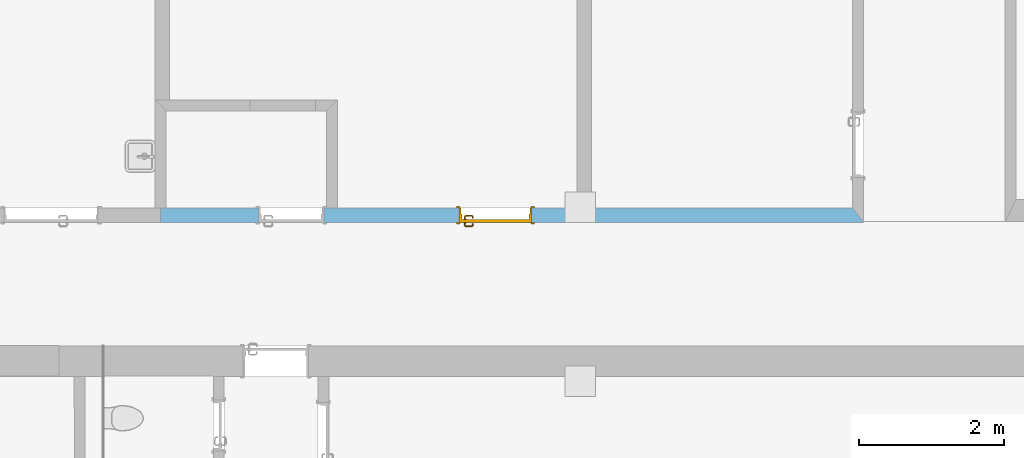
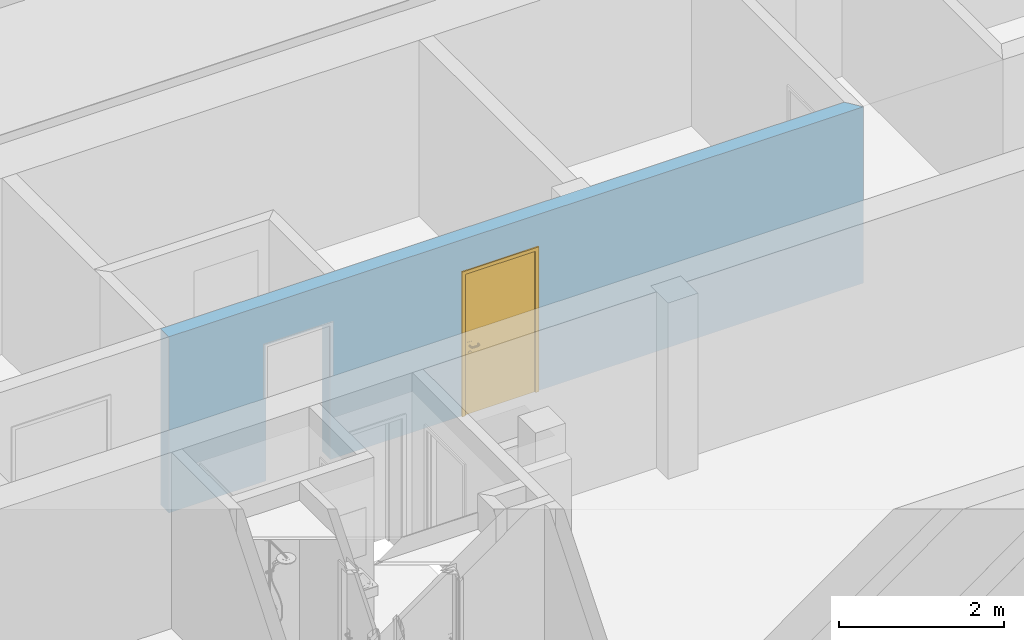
# One storey, part 55 of 127: 1 door, 2 openings, plus 1 element that does not belong to this part.
"""IFC2X3 building model written with IfcOpenShell, lengths in millimetres."""

from ifc_helpers import new_model, entity, si_unit, converted_unit, derived_unit, money_unit, direction, frame, origin_with_axes, origin_2d_with_axis, place, context, subcontext, project, spatial, polyline, rectangle, outline, extrude, open_shell, faceted_brep, surface_model, material, layer, layer_set, layer_usage, type_object, element, fill, save


model = new_model("IFC2X3")

# Units and contexts
model_context = context("Model", 3, precision=1e-05, world=origin_with_axes(), true_north=direction((0.0, 1.0)))
body_context = subcontext(model_context, "Body", "Model", "MODEL_VIEW")
ifc_project = project(units=[si_unit("LENGTHUNIT", "METRE", prefix="MILLI"), si_unit("AREAUNIT", "SQUARE_METRE"), si_unit("VOLUMEUNIT", "CUBIC_METRE"), converted_unit("PLANEANGLEUNIT", "DEGREE", entity("IfcPlaneAngleMeasure", 0.0174532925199), si_unit("PLANEANGLEUNIT", "RADIAN"), dimensions=[0, 0, 0, 0, 0, 0, 0]), si_unit("SOLIDANGLEUNIT", "STERADIAN"), money_unit("EUR"), converted_unit("TIMEUNIT", "Year", entity("IfcTimeMeasure", 31556926.0), si_unit("TIMEUNIT", "SECOND"), dimensions=[0, 0, 1, 0, 0, 0, 0]), si_unit("MASSUNIT", "GRAM", prefix="KILO"), si_unit("THERMODYNAMICTEMPERATUREUNIT", "DEGREE_CELSIUS"), si_unit("LUMINOUSINTENSITYUNIT", "LUMEN"), si_unit("ENERGYUNIT", "JOULE", prefix="MEGA"), derived_unit("THERMALCONDUCTANCEUNIT", [(si_unit("POWERUNIT", "WATT"), 1), (si_unit("LENGTHUNIT", "METRE"), -1), (si_unit("THERMODYNAMICTEMPERATUREUNIT", "KELVIN"), -1)]), derived_unit("SPECIFICHEATCAPACITYUNIT", [(si_unit("ENERGYUNIT", "JOULE"), 1), (si_unit("MASSUNIT", "GRAM", prefix="KILO"), -1), (si_unit("THERMODYNAMICTEMPERATUREUNIT", "KELVIN"), -1)]), derived_unit("MASSDENSITYUNIT", [(si_unit("MASSUNIT", "GRAM", prefix="KILO"), 1), (si_unit("VOLUMEUNIT", "CUBIC_METRE"), -1)])], contexts=[model_context])

# Site, building, storey
site_placement = place(None, origin_with_axes())
site = spatial("IfcSite", under=ifc_project, at=site_placement, Name="Site", CompositionType="ELEMENT")
building_placement = place(site_placement, origin_with_axes())
building = spatial("IfcBuilding", under=site, at=building_placement, Name="Building", CompositionType="ELEMENT")
storey_placement = place(building_placement, origin_with_axes())
storey = spatial("IfcBuildingStorey", under=building, at=storey_placement, Name="1 KORRUS", CompositionType="ELEMENT", Elevation=0.0)

# Wall, openings, door
ifc_material = material(Name="Kivi -Ol.Olev Konstruktsioon")
ifc_layer = layer(ifc_material, 200.0, ventilated="UNKNOWN")
ifc_layer_set = layer_set([ifc_layer], Name="ol.olev ss 200")
ifc_layer_usage = layer_usage(ifc_layer_set, "AXIS2", "POSITIVE", -200.0)
wall_type = type_object("IfcWallType", Name="SW - 036", PredefinedType="NOTDEFINED")
wall_placement = place(storey_placement, frame((79700.2206896, 42706.5120665, 0.0), z_axis=(0.0, 0.0, 1.0), x_axis=(-1.0, 0.0, 0.0)))
wall = element("IfcWallStandardCase", 1, at=wall_placement, inside=storey, type_object=wall_type, material=ifc_layer_usage, Name="ol.olev ss 200", context=body_context, shape_type="SweptSolid", body=[
    extrude(outline(polyline([(0.0, -200.0), (9543.44607645, -200.0), (9543.44607645, 0.0), (-150.0, 0.0), (0.0, -200.0)])), origin_with_axes(), (0.0, 0.0, 1.0), 2600.0),
])
opening_1_placement = place(wall_placement, frame((7740.94366922, 0.0, 0.0), z_axis=(0.0, 0.0, 1.0), x_axis=(1.0, 0.0, 0.0)))
element("IfcOpeningElement", 2, at=opening_1_placement, cuts=wall, Name="Siseuks * Door 22", context=body_context, shape_type="SweptSolid", body=[
    extrude(rectangle(XDim=900.0, YDim=2000.0, at=origin_2d_with_axis()), frame((0.0, -200.0, 1000.0), z_axis=(0.0, -1.0, 0.0), x_axis=(-1.0, 0.0, 0.0)), (0.0, 0.0, -1.0), 600.0),
    extrude(rectangle(XDim=974.0, YDim=2037.0, at=origin_2d_with_axis()), frame((0.0, -200.0, 1018.5), z_axis=(0.0, -1.0, 0.0), x_axis=(-1.0, 0.0, 0.0)), (0.0, 0.0, 1.0), 200.0),
    extrude(rectangle(XDim=974.0, YDim=2037.0, at=origin_2d_with_axis()), frame((0.0, 0.0, 1018.5), z_axis=(0.0, 1.0, 0.0), x_axis=(-1.0, 0.0, 0.0)), (0.0, 0.0, 1.0), 200.0),
])
opening_2_placement = place(wall_placement, frame((4924.39787578, 0.0, 0.0), z_axis=(0.0, 0.0, 1.0), x_axis=(1.0, 0.0, 0.0)))
opening_2 = element("IfcOpeningElement", 3, at=opening_2_placement, cuts=wall, Name="Siseuks * Door 22", context=body_context, shape_type="SweptSolid", body=[
    extrude(rectangle(XDim=1000.0, YDim=2100.0, at=origin_2d_with_axis()), frame((0.0, -200.0, 1050.0), z_axis=(0.0, -1.0, 0.0), x_axis=(-1.0, 0.0, 0.0)), (0.0, 0.0, -1.0), 600.0),
    extrude(rectangle(XDim=1074.0, YDim=2137.0, at=origin_2d_with_axis()), frame((0.0, -200.0, 1068.5), z_axis=(0.0, -1.0, 0.0), x_axis=(-1.0, 0.0, 0.0)), (0.0, 0.0, 1.0), 200.0),
    extrude(rectangle(XDim=1074.0, YDim=2137.0, at=origin_2d_with_axis()), frame((0.0, 0.0, 1068.5), z_axis=(0.0, 1.0, 0.0), x_axis=(-1.0, 0.0, 0.0)), (0.0, 0.0, 1.0), 200.0),
])
door_style = type_object("IfcDoorStyle", Name="SU-B125   1\xa0000×2\xa0100", ConstructionType="NOTDEFINED", OperationType="SINGLE_SWING_LEFT", ParameterTakesPrecedence=False, Sizeable=False)
door_placement = place(opening_2_placement, frame((-500.0, 0.0, 0.0), z_axis=(0.0, 0.0, 1.0), x_axis=(1.0, 0.0, 0.0)))
door = element("IfcDoor", 4, at=door_placement, inside=storey, type_object=door_style, Name="Siseuks * Door 22", OverallHeight=2100.0, OverallWidth=1000.0, context=body_context, shape_type="SurfaceModel", body=[
    faceted_brep([(1000.0, -115.0, 0.0), (1000.0, -200.0, 0.0), (975.0, -200.0, 0.0), (975.0, -115.0, 0.0), (1000.0, -115.0, 2100.0), (1000.0, -200.0, 2100.0), (975.0, -200.0, 2075.0), (975.0, -115.0, 2075.0)], [[[0, 1, 2, 3]], [[4, 5, 1, 0]], [[1, 5, 6, 2]], [[3, 2, 6, 7]], [[0, 3, 7, 4]], [[7, 6, 5, 4]]]),
    faceted_brep([(0.0, -115.0, 2100.0), (0.0, -200.0, 2100.0), (25.0, -200.0, 2075.0), (25.0, -115.0, 2075.0), (0.0, -115.0, 0.0), (0.0, -200.0, 0.0), (25.0, -200.0, 0.0), (25.0, -115.0, 0.0)], [[[0, 1, 2, 3]], [[4, 5, 1, 0]], [[1, 5, 6, 2]], [[3, 2, 6, 7]], [[0, 3, 7, 4]], [[7, 6, 5, 4]]]),
    faceted_brep([(975.0, -115.0, 2075.0), (975.0, -200.0, 2075.0), (25.0, -200.0, 2075.0), (25.0, -115.0, 2075.0), (1000.0, -115.0, 2100.0), (1000.0, -200.0, 2100.0), (0.0, -200.0, 2100.0), (0.0, -115.0, 2100.0)], [[[0, 1, 2, 3]], [[4, 5, 1, 0]], [[1, 5, 6, 2]], [[3, 2, 6, 7]], [[0, 3, 7, 4]], [[7, 6, 5, 4]]]),
    faceted_brep([(1037.0, -219.0, 0.0), (987.0, -219.0, 0.0), (987.0, -200.0, 0.0), (1037.0, -200.0, 0.0), (1037.0, -219.0, 2137.0), (987.0, -219.0, 2087.0), (987.0, -200.0, 2087.0), (1037.0, -200.0, 2137.0)], [[[0, 1, 2, 3]], [[0, 4, 5, 1]], [[1, 5, 6, 2]], [[3, 2, 6, 7]], [[4, 0, 3, 7]], [[5, 4, 7, 6]]]),
    faceted_brep([(-37.0, -219.0, 2137.0), (13.0, -219.0, 2087.0), (13.0, -200.0, 2087.0), (-37.0, -200.0, 2137.0), (-37.0, -219.0, 0.0), (13.0, -219.0, 0.0), (13.0, -200.0, 0.0), (-37.0, -200.0, 0.0)], [[[0, 1, 2, 3]], [[0, 4, 5, 1]], [[1, 5, 6, 2]], [[3, 2, 6, 7]], [[4, 0, 3, 7]], [[5, 4, 7, 6]]]),
    faceted_brep([(1037.0, -219.0, 2137.0), (987.0, -219.0, 2087.0), (987.0, -200.0, 2087.0), (1037.0, -200.0, 2137.0), (-37.0, -219.0, 2137.0), (13.0, -219.0, 2087.0), (13.0, -200.0, 2087.0), (-37.0, -200.0, 2137.0)], [[[0, 1, 2, 3]], [[0, 4, 5, 1]], [[1, 5, 6, 2]], [[3, 2, 6, 7]], [[4, 0, 3, 7]], [[5, 4, 7, 6]]]),
    faceted_brep([(1037.0, 19.0000000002, 0.0), (1037.0, 0.0, 0.0), (987.0, 0.0, 0.0), (987.0, 19.0000000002, 0.0), (1037.0, 19.0000000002, 2137.0), (1037.0, 0.0, 2137.0), (987.0, 0.0, 2087.0), (987.0, 19.0000000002, 2087.0)], [[[0, 1, 2, 3]], [[4, 5, 1, 0]], [[1, 5, 6, 2]], [[3, 2, 6, 7]], [[0, 3, 7, 4]], [[7, 6, 5, 4]]]),
    faceted_brep([(-37.0, 19.0000000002, 2137.0), (-37.0, 0.0, 2137.0), (13.0, 0.0, 2087.0), (13.0, 19.0000000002, 2087.0), (-37.0, 19.0000000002, 0.0), (-37.0, 0.0, 0.0), (13.0, 0.0, 0.0), (13.0, 19.0000000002, 0.0)], [[[0, 1, 2, 3]], [[4, 5, 1, 0]], [[1, 5, 6, 2]], [[3, 2, 6, 7]], [[0, 3, 7, 4]], [[7, 6, 5, 4]]]),
    faceted_brep([(1037.0, 19.0000000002, 2137.0), (1037.0, 0.0, 2137.0), (987.0, 0.0, 2087.0), (987.0, 19.0000000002, 2087.0), (-37.0, 19.0000000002, 2137.0), (-37.0, 0.0, 2137.0), (13.0, 0.0, 2087.0), (13.0, 19.0000000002, 2087.0)], [[[0, 1, 2, 3]], [[4, 5, 1, 0]], [[1, 5, 6, 2]], [[3, 2, 6, 7]], [[0, 3, 7, 4]], [[7, 6, 5, 4]]]),
    faceted_brep([(960.0, -40.0, 0.0), (960.0, -115.0, 0.0), (960.0, -115.0, 2060.0), (960.0, -40.0, 2060.0), (972.0, -40.0, 0.0), (972.0, 0.0, 0.0), (1000.0, 0.0, 0.0), (1000.0, -115.0, 0.0), (1000.0, -115.0, 2060.0), (972.0, -40.0, 2060.0), (1000.0, 0.0, 2060.0), (972.0, 0.0, 2060.0)], [[[0, 1, 2, 3]], [[4, 5, 6, 7, 1, 0]], [[1, 7, 8, 2]], [[9, 3, 2, 8, 10, 11]], [[9, 4, 0, 3]], [[11, 5, 4, 9]], [[11, 10, 6, 5]], [[6, 10, 8, 7]]]),
    faceted_brep([(28.0, -40.0, 2060.0), (28.0, 0.0, 2060.0), (0.0, 0.0, 2060.0), (0.0, -115.0, 2060.0), (40.0, -115.0, 2060.0), (40.0, -40.0, 2060.0), (28.0, -40.0, 0.0), (28.0, 0.0, 0.0), (0.0, 0.0, 0.0), (0.0, -115.0, 0.0), (40.0, -115.0, 0.0), (40.0, -40.0, 0.0)], [[[0, 1, 2, 3, 4, 5]], [[0, 6, 7, 1]], [[7, 8, 2, 1]], [[2, 8, 9, 3]], [[3, 9, 10, 4]], [[5, 4, 10, 11]], [[5, 11, 6, 0]], [[6, 11, 10, 9, 8, 7]]]),
    faceted_brep([(972.0, 0.0, 2072.0), (28.0, 0.0, 2072.0), (28.0, 0.0, 2060.0), (0.0, 0.0, 2060.0), (0.0, 0.0, 2100.0), (1000.0, 0.0, 2100.0), (1000.0, 0.0, 2060.0), (972.0, 0.0, 2060.0), (972.0, -40.0, 2072.0), (28.0, -40.0, 2072.0), (28.0, -40.0, 2060.0), (40.0, -40.0, 2060.0), (40.0, -115.0, 2060.0), (0.0, -115.0, 2060.0), (0.0, -115.0, 2100.0), (1000.0, -115.0, 2100.0), (1000.0, -115.0, 2060.0), (972.0, -40.0, 2060.0), (960.0, -115.0, 2060.0), (960.0, -40.0, 2060.0)], [[[0, 1, 2, 3, 4, 5, 6, 7]], [[0, 8, 9, 1]], [[1, 9, 10, 2]], [[10, 11, 12, 13, 3, 2]], [[4, 3, 13, 14]], [[5, 4, 14, 15]], [[6, 5, 15, 16]], [[17, 7, 6, 16, 18, 19]], [[7, 17, 8, 0]], [[10, 9, 8, 17, 19, 11]], [[19, 18, 12, 11]], [[12, 18, 16, 15, 14, 13]]]),
    faceted_brep([(950.5, -40.0, 1060.0), (893.5, -40.0, 1060.0), (893.5, -42.9999999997, 1060.0), (950.5, -42.9999999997, 1060.0), (950.5, -40.0, 870.0), (893.5, -40.0, 870.0), (893.5, -42.9999999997, 870.0), (950.5, -42.9999999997, 870.0)], [[[0, 1, 2, 3]], [[0, 4, 5, 1]], [[1, 5, 6, 2]], [[3, 2, 6, 7]], [[4, 0, 3, 7]], [[5, 4, 7, 6]]]),
    surface_model("IfcShellBasedSurfaceModel", [(912.0, -52.9999999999, 1000.0), (914.928932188, -52.9999999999, 992.928932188), (914.928932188, -72.3035606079, 992.928932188), (912.0, -72.0150859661, 1000.0), (922.0, -52.9999999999, 990.0), (922.0, -73.0000000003, 990.0), (913.816790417, -77.8946748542, 992.928932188), (911.057796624, -76.7518622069, 1000.0), (914.928932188, -52.9999999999, 1007.07106781), (914.928932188, -72.3035606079, 1007.07106781), (929.071067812, -52.9999999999, 992.928932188), (929.071067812, -73.6964393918, 992.928932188), (920.47759065, -80.6536686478, 990.0), (911.044179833, -82.0441798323, 992.928932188), (908.932537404, -79.9325374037, 1000.0), (913.816790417, -77.8946748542, 1007.07106781), (922.0, -52.9999999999, 1010.0), (922.0, -73.0000000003, 1010.0), (932.0, -52.9999999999, 1000.0), (932.0, -73.9849140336, 1000.0), (927.138390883, -83.4126624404, 992.928932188), (916.142135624, -87.1421356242, 990.0), (906.894674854, -84.8167904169, 992.928932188), (905.751862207, -82.0577966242, 1000.0), (911.044179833, -82.0441798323, 1007.07106781), (920.47759065, -80.6536686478, 1010.0), (929.071067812, -52.9999999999, 1007.07106781), (929.071067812, -73.6964393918, 1007.07106781), (929.897384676, -84.5554750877, 1000.0), (921.240091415, -92.2400914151, 992.928932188), (909.653668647, -91.4775906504, 990.0), (901.303560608, -85.9289321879, 992.928932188), (901.015085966, -82.9999999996, 1000.0), (906.894674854, -84.8167904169, 1007.07106781), (916.142135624, -87.1421356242, 1010.0), (927.138390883, -83.4126624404, 1007.07106781), (923.351733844, -94.3517338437, 1000.0), (912.41266244, -98.1383908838, 992.928932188), (902.0, -92.9999999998, 990.0), (832.696439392, -85.9289321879, 992.928932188), (832.984914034, -82.9999999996, 1000.0), (901.303560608, -85.9289321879, 1007.07106781), (909.653668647, -91.4775906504, 1010.0), (921.240091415, -92.2400914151, 1007.07106781), (913.555475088, -100.897384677, 1000.0), (902.696439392, -100.071067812, 992.928932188), (832.0, -92.9999999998, 990.0), (827.105325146, -84.8167904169, 992.928932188), (828.248137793, -82.0577966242, 1000.0), (832.696439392, -85.9289321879, 1007.07106781), (902.0, -92.9999999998, 1010.0), (912.41266244, -98.1383908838, 1007.07106781), (902.984914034, -103.0, 1000.0), (831.303560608, -100.071067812, 992.928932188), (824.346331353, -91.4775906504, 990.0), (822.955820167, -82.0441798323, 992.928932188), (825.067462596, -79.9325374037, 1000.0), (827.105325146, -84.8167904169, 1007.07106781), (832.0, -92.9999999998, 1010.0), (902.696439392, -100.071067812, 1007.07106781), (831.015085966, -103.0, 1000.0), (821.58733756, -98.1383908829, 992.928932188), (817.857864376, -87.1421356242, 990.0), (820.183209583, -77.8946748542, 992.928932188), (822.942203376, -76.7518622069, 1000.0), (822.955820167, -82.0441798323, 1007.07106781), (824.346331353, -91.4775906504, 1010.0), (831.303560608, -100.071067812, 1007.07106781), (820.444524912, -100.897384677, 1000.0), (812.759908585, -92.2400914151, 992.928932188), (813.52240935, -80.6536686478, 990.0), (819.071067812, -72.3035606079, 992.928932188), (822.0, -72.0150859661, 1000.0), (820.183209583, -77.8946748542, 1007.07106781), (817.857864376, -87.1421356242, 1010.0), (821.58733756, -98.1383908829, 1007.07106781), (810.648266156, -94.3517338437, 1000.0), (806.861609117, -83.4126624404, 992.928932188), (812.0, -73.0000000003, 990.0), (819.071067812, -52.9999999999, 992.928932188), (822.0, -52.9999999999, 1000.0), (819.071067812, -72.3035606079, 1007.07106781), (813.52240935, -80.6536686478, 1010.0), (812.759908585, -92.2400914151, 1007.07106781), (804.102615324, -84.5554750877, 1000.0), (804.928932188, -73.6964393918, 992.928932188), (812.0, -52.9999999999, 990.0), (804.928932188, -52.9999999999, 992.928932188), (802.0, -52.9999999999, 1000.0), (804.928932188, -52.9999999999, 1007.07106781), (812.0, -52.9999999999, 1010.0), (819.071067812, -52.9999999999, 1007.07106781), (812.0, -73.0000000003, 1010.0), (806.861609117, -83.4126624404, 1007.07106781), (802.0, -73.9849140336, 1000.0), (804.928932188, -73.6964393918, 1007.07106781)], [open_shell([[[0, 1, 2, 3]], [[1, 4, 5, 2]], [[3, 2, 6, 7]], [[8, 0, 3, 9]], [[4, 10, 11, 5]], [[2, 5, 12, 6]], [[7, 6, 13, 14]], [[9, 3, 7, 15]], [[16, 8, 9, 17]], [[10, 18, 19, 11]], [[5, 11, 20, 12]], [[6, 12, 21, 13]], [[14, 13, 22, 23]], [[15, 7, 14, 24]], [[17, 9, 15, 25]], [[26, 16, 17, 27]], [[18, 26, 27, 19]], [[11, 19, 28, 20]], [[12, 20, 29, 21]], [[13, 21, 30, 22]], [[23, 22, 31, 32]], [[24, 14, 23, 33]], [[25, 15, 24, 34]], [[27, 17, 25, 35]], [[19, 27, 35, 28]], [[20, 28, 36, 29]], [[21, 29, 37, 30]], [[22, 30, 38, 31]], [[32, 31, 39, 40]], [[33, 23, 32, 41]], [[34, 24, 33, 42]], [[35, 25, 34, 43]], [[28, 35, 43, 36]], [[29, 36, 44, 37]], [[30, 37, 45, 38]], [[31, 38, 46, 39]], [[40, 39, 47, 48]], [[41, 32, 40, 49]], [[42, 33, 41, 50]], [[43, 34, 42, 51]], [[36, 43, 51, 44]], [[37, 44, 52, 45]], [[38, 45, 53, 46]], [[39, 46, 54, 47]], [[48, 47, 55, 56]], [[49, 40, 48, 57]], [[50, 41, 49, 58]], [[51, 42, 50, 59]], [[44, 51, 59, 52]], [[45, 52, 60, 53]], [[46, 53, 61, 54]], [[47, 54, 62, 55]], [[56, 55, 63, 64]], [[57, 48, 56, 65]], [[58, 49, 57, 66]], [[59, 50, 58, 67]], [[52, 59, 67, 60]], [[53, 60, 68, 61]], [[54, 61, 69, 62]], [[55, 62, 70, 63]], [[64, 63, 71, 72]], [[65, 56, 64, 73]], [[66, 57, 65, 74]], [[67, 58, 66, 75]], [[60, 67, 75, 68]], [[61, 68, 76, 69]], [[62, 69, 77, 70]], [[63, 70, 78, 71]], [[72, 71, 79, 80]], [[73, 64, 72, 81]], [[74, 65, 73, 82]], [[75, 66, 74, 83]], [[68, 75, 83, 76]], [[69, 76, 84, 77]], [[70, 77, 85, 78]], [[71, 78, 86, 79]], [[80, 79, 86, 87, 88, 89, 90, 91]], [[81, 72, 80, 91]], [[82, 73, 81, 92]], [[83, 74, 82, 93]], [[76, 83, 93, 84]], [[77, 84, 94, 85]], [[78, 85, 87, 86]], [[85, 94, 88, 87]], [[94, 95, 89, 88]], [[95, 92, 90, 89]], [[92, 81, 91, 90]], [[93, 82, 92, 95]], [[84, 93, 95, 94]]])]),
    faceted_brep([(911.607695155, -52.9999999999, 994.0), (910.0, -52.9999999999, 1000.0), (909.0, -42.9999999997, 1000.0), (910.741669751, -42.9999999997, 993.5), (916.0, -52.9999999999, 989.607695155), (922.0, -52.9999999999, 988.0), (928.0, -52.9999999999, 989.607695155), (932.392304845, -52.9999999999, 994.0), (934.0, -52.9999999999, 1000.0), (932.392304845, -52.9999999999, 1006.0), (928.0, -52.9999999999, 1010.39230485), (922.0, -52.9999999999, 1012.0), (916.0, -52.9999999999, 1010.39230485), (911.607695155, -52.9999999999, 1006.0), (910.741669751, -42.9999999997, 1006.5), (915.5, -42.9999999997, 1011.25833025), (922.0, -42.9999999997, 1013.0), (928.5, -42.9999999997, 1011.25833025), (933.258330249, -42.9999999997, 1006.5), (935.0, -42.9999999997, 1000.0), (933.258330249, -42.9999999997, 993.5), (928.5, -42.9999999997, 988.741669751), (922.0, -42.9999999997, 987.0), (915.5, -42.9999999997, 988.741669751)], [[[0, 1, 2, 3]], [[1, 0, 4, 5, 6, 7, 8, 9, 10, 11, 12, 13]], [[1, 13, 14, 2]], [[2, 14, 15, 16, 17, 18, 19, 20, 21, 22, 23, 3]], [[4, 0, 3, 23]], [[5, 4, 23, 22]], [[6, 5, 22, 21]], [[7, 6, 21, 20]], [[8, 7, 20, 19]], [[9, 8, 19, 18]], [[10, 9, 18, 17]], [[11, 10, 17, 16]], [[12, 11, 16, 15]], [[13, 12, 15, 14]]]),
    faceted_brep([(904.679491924, -46.9999999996, 895.0), (902.0, -46.9999999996, 905.0), (900.0, -42.9999999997, 905.0), (902.947441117, -42.9999999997, 894.0), (912.0, -46.9999999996, 887.679491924), (922.0, -46.9999999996, 885.0), (932.0, -46.9999999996, 887.679491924), (939.320508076, -46.9999999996, 895.0), (942.0, -46.9999999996, 905.0), (939.320508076, -46.9999999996, 915.0), (932.0, -46.9999999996, 922.320508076), (922.0, -46.9999999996, 925.0), (912.0, -46.9999999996, 922.320508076), (904.679491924, -46.9999999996, 915.0), (902.947441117, -42.9999999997, 916.0), (911.0, -42.9999999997, 924.052558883), (922.0, -42.9999999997, 927.0), (933.0, -42.9999999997, 924.052558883), (941.052558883, -42.9999999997, 916.0), (944.0, -42.9999999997, 905.0), (941.052558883, -42.9999999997, 894.0), (933.0, -42.9999999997, 885.947441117), (922.0, -42.9999999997, 883.0), (911.0, -42.9999999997, 885.947441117)], [[[0, 1, 2, 3]], [[1, 0, 4, 5, 6, 7, 8, 9, 10, 11, 12, 13]], [[1, 13, 14, 2]], [[2, 14, 15, 16, 17, 18, 19, 20, 21, 22, 23, 3]], [[4, 0, 3, 23]], [[5, 4, 23, 22]], [[6, 5, 22, 21]], [[7, 6, 21, 20]], [[8, 7, 20, 19]], [[9, 8, 19, 18]], [[10, 9, 18, 17]], [[11, 10, 17, 16]], [[12, 11, 16, 15]], [[13, 12, 15, 14]]]),
    faceted_brep([(917.050252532, -49.0, 909.050252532), (915.0, -49.0, 914.0), (914.0, -46.9999999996, 914.0), (916.34314575, -46.9999999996, 908.343145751), (922.0, -49.0, 907.0), (926.949747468, -49.0, 909.050252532), (929.0, -49.0, 914.0), (926.949747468, -49.0, 918.949747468), (922.0, -49.0, 921.0), (917.050252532, -49.0, 918.949747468), (916.34314575, -46.9999999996, 919.656854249), (922.0, -46.9999999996, 922.0), (927.656854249, -46.9999999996, 919.656854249), (930.0, -46.9999999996, 914.0), (927.656854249, -46.9999999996, 908.343145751), (922.0, -46.9999999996, 906.0)], [[[0, 1, 2, 3]], [[1, 0, 4, 5, 6, 7, 8, 9]], [[1, 9, 10, 2]], [[2, 10, 11, 12, 13, 14, 15, 3]], [[4, 0, 3, 15]], [[5, 4, 15, 14]], [[6, 5, 14, 13]], [[7, 6, 13, 12]], [[8, 7, 12, 11]], [[9, 8, 11, 10]]]),
    faceted_brep([(950.5, 0.0, 1060.0), (950.5, 2.9999999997, 1060.0), (893.5, 2.9999999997, 1060.0), (893.5, 0.0, 1060.0), (950.5, 0.0, 870.0), (950.5, 2.9999999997, 870.0), (893.5, 2.9999999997, 870.0), (893.5, 0.0, 870.0)], [[[0, 1, 2, 3]], [[4, 5, 1, 0]], [[1, 5, 6, 2]], [[3, 2, 6, 7]], [[0, 3, 7, 4]], [[7, 6, 5, 4]]]),
    surface_model("IfcShellBasedSurfaceModel", [(912.0, 12.9999999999, 1000.0), (912.0, 32.0150859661, 1000.0), (914.928932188, 32.3035606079, 992.928932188), (914.928932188, 12.9999999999, 992.928932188), (914.928932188, 12.9999999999, 1007.07106781), (914.928932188, 32.3035606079, 1007.07106781), (911.057796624, 36.751862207, 1000.0), (913.816790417, 37.8946748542, 992.928932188), (922.0, 33.0000000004, 990.0), (922.0, 12.9999999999, 990.0), (922.0, 12.9999999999, 1010.0), (922.0, 33.0000000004, 1010.0), (913.816790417, 37.8946748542, 1007.07106781), (908.932537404, 39.9325374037, 1000.0), (911.044179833, 42.0441798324, 992.928932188), (920.47759065, 40.6536686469, 990.0), (929.071067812, 33.6964393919, 992.928932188), (929.071067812, 12.9999999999, 992.928932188), (929.071067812, 12.9999999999, 1007.07106781), (929.071067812, 33.6964393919, 1007.07106781), (920.47759065, 40.6536686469, 1010.0), (911.044179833, 42.0441798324, 1007.07106781), (905.751862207, 42.0577966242, 1000.0), (906.894674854, 44.8167904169, 992.928932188), (916.142135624, 47.1421356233, 990.0), (927.138390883, 43.4126624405, 992.928932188), (932.0, 33.9849140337, 1000.0), (932.0, 12.9999999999, 1000.0), (927.138390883, 43.4126624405, 1007.07106781), (916.142135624, 47.1421356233, 1010.0), (906.894674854, 44.8167904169, 1007.07106781), (901.015085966, 42.9999999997, 1000.0), (901.303560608, 45.928932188, 992.928932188), (909.653668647, 51.4775906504, 990.0), (921.240091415, 52.2400914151, 992.928932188), (929.897384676, 44.5554750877, 1000.0), (921.240091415, 52.2400914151, 1007.07106781), (909.653668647, 51.4775906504, 1010.0), (901.303560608, 45.928932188, 1007.07106781), (832.984914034, 42.9999999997, 1000.0), (832.696439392, 45.928932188, 992.928932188), (902.0, 52.9999999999, 990.0), (912.41266244, 58.138390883, 992.928932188), (923.351733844, 54.3517338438, 1000.0), (912.41266244, 58.138390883, 1007.07106781), (902.0, 52.9999999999, 1010.0), (832.696439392, 45.928932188, 1007.07106781), (828.248137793, 42.0577966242, 1000.0), (827.105325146, 44.8167904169, 992.928932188), (832.0, 52.9999999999, 990.0), (902.696439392, 60.0710678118, 992.928932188), (913.555475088, 60.8973846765, 1000.0), (902.696439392, 60.0710678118, 1007.07106781), (832.0, 52.9999999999, 1010.0), (827.105325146, 44.8167904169, 1007.07106781), (825.067462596, 39.9325374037, 1000.0), (822.955820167, 42.0441798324, 992.928932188), (824.346331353, 51.4775906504, 990.0), (831.303560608, 60.0710678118, 992.928932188), (902.984914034, 63.0000000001, 1000.0), (831.303560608, 60.0710678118, 1007.07106781), (824.346331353, 51.4775906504, 1010.0), (822.955820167, 42.0441798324, 1007.07106781), (822.942203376, 36.751862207, 1000.0), (820.183209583, 37.8946748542, 992.928932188), (817.857864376, 47.1421356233, 990.0), (821.58733756, 58.138390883, 992.928932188), (831.015085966, 63.0000000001, 1000.0), (821.58733756, 58.138390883, 1007.07106781), (817.857864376, 47.1421356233, 1010.0), (820.183209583, 37.8946748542, 1007.07106781), (822.0, 32.0150859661, 1000.0), (819.071067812, 32.3035606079, 992.928932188), (813.52240935, 40.6536686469, 990.0), (812.759908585, 52.2400914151, 992.928932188), (820.444524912, 60.8973846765, 1000.0), (812.759908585, 52.2400914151, 1007.07106781), (813.52240935, 40.6536686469, 1010.0), (819.071067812, 32.3035606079, 1007.07106781), (822.0, 12.9999999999, 1000.0), (819.071067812, 12.9999999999, 992.928932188), (812.0, 33.0000000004, 990.0), (806.861609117, 43.4126624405, 992.928932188), (810.648266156, 54.3517338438, 1000.0), (806.861609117, 43.4126624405, 1007.07106781), (812.0, 33.0000000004, 1010.0), (819.071067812, 12.9999999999, 1007.07106781), (812.0, 12.9999999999, 1010.0), (804.928932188, 12.9999999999, 1007.07106781), (802.0, 12.9999999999, 1000.0), (804.928932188, 12.9999999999, 992.928932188), (812.0, 12.9999999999, 990.0), (804.928932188, 33.6964393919, 992.928932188), (804.102615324, 44.5554750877, 1000.0), (804.928932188, 33.6964393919, 1007.07106781), (802.0, 33.9849140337, 1000.0)], [open_shell([[[0, 1, 2, 3]], [[4, 5, 1, 0]], [[1, 6, 7, 2]], [[3, 2, 8, 9]], [[10, 11, 5, 4]], [[5, 12, 6, 1]], [[6, 13, 14, 7]], [[2, 7, 15, 8]], [[9, 8, 16, 17]], [[18, 19, 11, 10]], [[11, 20, 12, 5]], [[12, 21, 13, 6]], [[13, 22, 23, 14]], [[7, 14, 24, 15]], [[8, 15, 25, 16]], [[17, 16, 26, 27]], [[27, 26, 19, 18]], [[19, 28, 20, 11]], [[20, 29, 21, 12]], [[21, 30, 22, 13]], [[22, 31, 32, 23]], [[14, 23, 33, 24]], [[15, 24, 34, 25]], [[16, 25, 35, 26]], [[26, 35, 28, 19]], [[28, 36, 29, 20]], [[29, 37, 30, 21]], [[30, 38, 31, 22]], [[31, 39, 40, 32]], [[23, 32, 41, 33]], [[24, 33, 42, 34]], [[25, 34, 43, 35]], [[35, 43, 36, 28]], [[36, 44, 37, 29]], [[37, 45, 38, 30]], [[38, 46, 39, 31]], [[39, 47, 48, 40]], [[32, 40, 49, 41]], [[33, 41, 50, 42]], [[34, 42, 51, 43]], [[43, 51, 44, 36]], [[44, 52, 45, 37]], [[45, 53, 46, 38]], [[46, 54, 47, 39]], [[47, 55, 56, 48]], [[40, 48, 57, 49]], [[41, 49, 58, 50]], [[42, 50, 59, 51]], [[51, 59, 52, 44]], [[52, 60, 53, 45]], [[53, 61, 54, 46]], [[54, 62, 55, 47]], [[55, 63, 64, 56]], [[48, 56, 65, 57]], [[49, 57, 66, 58]], [[50, 58, 67, 59]], [[59, 67, 60, 52]], [[60, 68, 61, 53]], [[61, 69, 62, 54]], [[62, 70, 63, 55]], [[63, 71, 72, 64]], [[56, 64, 73, 65]], [[57, 65, 74, 66]], [[58, 66, 75, 67]], [[67, 75, 68, 60]], [[68, 76, 69, 61]], [[69, 77, 70, 62]], [[70, 78, 71, 63]], [[71, 79, 80, 72]], [[64, 72, 81, 73]], [[65, 73, 82, 74]], [[66, 74, 83, 75]], [[75, 83, 76, 68]], [[76, 84, 77, 69]], [[77, 85, 78, 70]], [[78, 86, 79, 71]], [[79, 86, 87, 88, 89, 90, 91, 80]], [[72, 80, 91, 81]], [[73, 81, 92, 82]], [[74, 82, 93, 83]], [[83, 93, 84, 76]], [[84, 94, 85, 77]], [[85, 87, 86, 78]], [[94, 88, 87, 85]], [[95, 89, 88, 94]], [[92, 90, 89, 95]], [[81, 91, 90, 92]], [[82, 92, 95, 93]], [[93, 95, 94, 84]]])]),
    faceted_brep([(911.607695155, 12.9999999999, 994.0), (910.741669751, 2.9999999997, 993.5), (909.0, 2.9999999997, 1000.0), (910.0, 12.9999999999, 1000.0), (916.0, 12.9999999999, 989.607695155), (915.5, 2.9999999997, 988.741669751), (922.0, 2.9999999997, 987.0), (928.5, 2.9999999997, 988.741669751), (933.258330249, 2.9999999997, 993.5), (935.0, 2.9999999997, 1000.0), (933.258330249, 2.9999999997, 1006.5), (928.5, 2.9999999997, 1011.25833025), (922.0, 2.9999999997, 1013.0), (915.5, 2.9999999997, 1011.25833025), (910.741669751, 2.9999999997, 1006.5), (911.607695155, 12.9999999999, 1006.0), (916.0, 12.9999999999, 1010.39230485), (922.0, 12.9999999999, 1012.0), (928.0, 12.9999999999, 1010.39230485), (932.392304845, 12.9999999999, 1006.0), (934.0, 12.9999999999, 1000.0), (932.392304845, 12.9999999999, 994.0), (928.0, 12.9999999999, 989.607695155), (922.0, 12.9999999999, 988.0)], [[[0, 1, 2, 3]], [[4, 5, 1, 0]], [[2, 1, 5, 6, 7, 8, 9, 10, 11, 12, 13, 14]], [[3, 2, 14, 15]], [[3, 15, 16, 17, 18, 19, 20, 21, 22, 23, 4, 0]], [[23, 6, 5, 4]], [[22, 7, 6, 23]], [[21, 8, 7, 22]], [[20, 9, 8, 21]], [[19, 10, 9, 20]], [[18, 11, 10, 19]], [[17, 12, 11, 18]], [[16, 13, 12, 17]], [[15, 14, 13, 16]]]),
    faceted_brep([(904.679491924, 6.99999999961, 895.0), (902.947441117, 2.9999999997, 894.0), (900.0, 2.9999999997, 905.0), (902.0, 6.99999999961, 905.0), (912.0, 6.99999999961, 887.679491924), (911.0, 2.9999999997, 885.947441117), (922.0, 2.9999999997, 883.0), (933.0, 2.9999999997, 885.947441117), (941.052558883, 2.9999999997, 894.0), (944.0, 2.9999999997, 905.0), (941.052558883, 2.9999999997, 916.0), (933.0, 2.9999999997, 924.052558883), (922.0, 2.9999999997, 927.0), (911.0, 2.9999999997, 924.052558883), (902.947441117, 2.9999999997, 916.0), (904.679491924, 6.99999999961, 915.0), (912.0, 6.99999999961, 922.320508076), (922.0, 6.99999999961, 925.0), (932.0, 6.99999999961, 922.320508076), (939.320508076, 6.99999999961, 915.0), (942.0, 6.99999999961, 905.0), (939.320508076, 6.99999999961, 895.0), (932.0, 6.99999999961, 887.679491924), (922.0, 6.99999999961, 885.0)], [[[0, 1, 2, 3]], [[4, 5, 1, 0]], [[2, 1, 5, 6, 7, 8, 9, 10, 11, 12, 13, 14]], [[3, 2, 14, 15]], [[3, 15, 16, 17, 18, 19, 20, 21, 22, 23, 4, 0]], [[23, 6, 5, 4]], [[22, 7, 6, 23]], [[21, 8, 7, 22]], [[20, 9, 8, 21]], [[19, 10, 9, 20]], [[18, 11, 10, 19]], [[17, 12, 11, 18]], [[16, 13, 12, 17]], [[15, 14, 13, 16]]]),
    faceted_brep([(917.050252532, 9.00000000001, 909.050252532), (916.34314575, 6.99999999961, 908.343145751), (914.0, 6.99999999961, 914.0), (915.0, 9.00000000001, 914.0), (922.0, 9.00000000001, 907.0), (922.0, 6.99999999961, 906.0), (927.656854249, 6.99999999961, 908.343145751), (930.0, 6.99999999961, 914.0), (927.656854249, 6.99999999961, 919.656854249), (922.0, 6.99999999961, 922.0), (916.34314575, 6.99999999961, 919.656854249), (917.050252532, 9.00000000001, 918.949747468), (922.0, 9.00000000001, 921.0), (926.949747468, 9.00000000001, 918.949747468), (929.0, 9.00000000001, 914.0), (926.949747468, 9.00000000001, 909.050252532)], [[[0, 1, 2, 3]], [[4, 5, 1, 0]], [[2, 1, 5, 6, 7, 8, 9, 10]], [[3, 2, 10, 11]], [[3, 11, 12, 13, 14, 15, 4, 0]], [[15, 6, 5, 4]], [[14, 7, 6, 15]], [[13, 8, 7, 14]], [[12, 9, 8, 13]], [[11, 10, 9, 12]]]),
    faceted_brep([(28.0, 0.0, 0.0), (972.0, 0.0, 0.0), (972.0, -40.0, 0.0), (28.0, -40.0, 0.0), (28.0, 0.0, 2072.0), (972.0, 0.0, 2072.0), (972.0, -40.0, 2072.0), (28.0, -40.0, 2072.0)], [[[0, 1, 2, 3]], [[0, 4, 5, 1]], [[1, 5, 6, 2]], [[3, 2, 6, 7]], [[4, 0, 3, 7]], [[5, 4, 7, 6]]]),
])
fill(opening_2, door)

save(model, "model.ifc")
